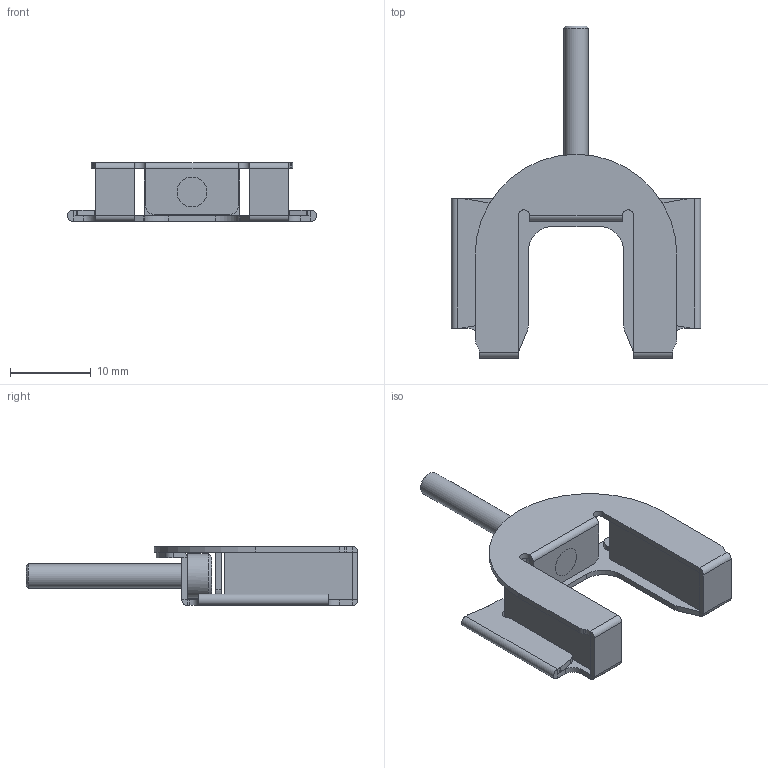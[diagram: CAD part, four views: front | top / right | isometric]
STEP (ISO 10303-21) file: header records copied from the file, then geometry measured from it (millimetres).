
FILE_DESCRIPTION(/* description */ (''),/* implementation_level */ '2;1');
FILE_NAME(/* name */ 'LA-2237-0829#-C.stp',/* time_stamp */ '2012-10-01T13:50:23+01:00',/* author */ (''),/* organization */ (''),/* preprocessor_version */ 'ST-DEVELOPER v11',/* originating_system */ 'SIEMENS PLM Software NX 7.5',/* authorisation */ '');
FILE_SCHEMA (('AUTOMOTIVE_DESIGN { 1 0 10303 214 1 1 1 1 }'));
Length unit declared in the file: millimetre
Products named in the file (1): rt13D5C77l53
Bounding box: 30.9 x 41.15 x 7.3 mm (x, y, z)
Volume: 1696.3 mm3; surface area: 2407.7 mm2
Topology: 1 solids, 1 shells, 146 faces, 387 edges, 245 vertices
Faces by surface type: plane 87, cylinder 52, bspline 5, cone 2
Full cylindrical faces by diameter (mm): 3 x1, 5.5 x1
Entity records: 4533 total; most frequent: CARTESIAN_POINT 827, ORIENTED_EDGE 758, DIRECTION 749, EDGE_CURVE 379, AXIS2_PLACEMENT_3D 253, LINE 243, VECTOR 243, VERTEX_POINT 241
